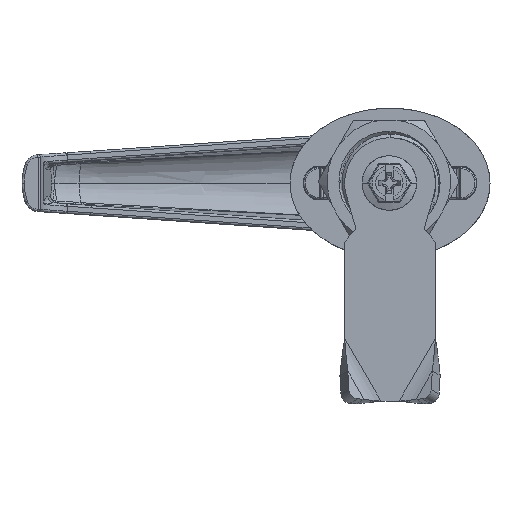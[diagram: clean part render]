
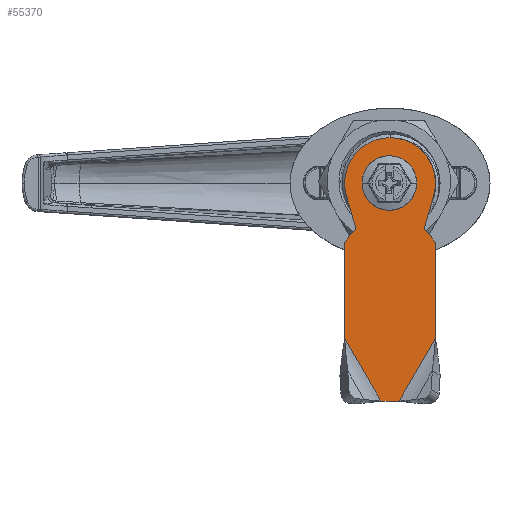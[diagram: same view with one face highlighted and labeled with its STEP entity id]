
A CAD part, front view. The second image highlights one B-rep face of the part: STEP entity #55370.
In plain terms, the highlighted planar face has unit normal (0, -1, 0) as drawn and (0, 0, 1) by its records, which use the part's own axes.
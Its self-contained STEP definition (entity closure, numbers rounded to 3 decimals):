
#62 = DIRECTION ( 'NONE',  ( 0., 0., 1. ) ) ;
#149 = AXIS2_PLACEMENT_3D ( 'NONE', #74948, #81919, #68790 ) ;
#229 = DIRECTION ( 'NONE',  ( -1., 0., 0. ) ) ;
#641 = EDGE_CURVE ( 'NONE', #6091, #76525, #75152, .T. ) ;
#1033 = CIRCLE ( 'NONE', #85734, 1. ) ;
#1094 = EDGE_LOOP ( 'NONE', ( #63934, #5367, #47738, #48178, #26622, #7473, #42017, #30964, #29898, #8454 ) ) ;
#2169 = VERTEX_POINT ( 'NONE', #28005 ) ;
#2485 = DIRECTION ( 'NONE',  ( 1., 0., 0. ) ) ;
#2763 = ORIENTED_EDGE ( 'NONE', *, *, #53090, .F. ) ;
#2764 = AXIS2_PLACEMENT_3D ( 'NONE', #60504, #12294, #54000 ) ;
#4148 = AXIS2_PLACEMENT_3D ( 'NONE', #81488, #43571, #24021 ) ;
#4316 = CARTESIAN_POINT ( 'NONE',  ( 4., 0., 4. ) ) ;
#4379 = VERTEX_POINT ( 'NONE', #25475 ) ;
#4467 = CARTESIAN_POINT ( 'NONE',  ( 10., 7.5, 4. ) ) ;
#4570 = VECTOR ( 'NONE', #229, 1000. ) ;
#4766 = CARTESIAN_POINT ( 'NONE',  ( 12.979, -10., 4. ) ) ;
#5367 = ORIENTED_EDGE ( 'NONE', *, *, #80478, .T. ) ;
#6091 = VERTEX_POINT ( 'NONE', #70748 ) ;
#6527 = CARTESIAN_POINT ( 'NONE',  ( 0., 0., 4. ) ) ;
#6788 = VECTOR ( 'NONE', #61321, 1000. ) ;
#7234 = ORIENTED_EDGE ( 'NONE', *, *, #78962, .T. ) ;
#7473 = ORIENTED_EDGE ( 'NONE', *, *, #59435, .F. ) ;
#8049 = VECTOR ( 'NONE', #30923, 1000. ) ;
#8454 = ORIENTED_EDGE ( 'NONE', *, *, #47170, .F. ) ;
#8817 = CARTESIAN_POINT ( 'NONE',  ( 47.979, 5., 4. ) ) ;
#10145 = DIRECTION ( 'NONE',  ( 0.96, -0.28, 0. ) ) ;
#10425 = EDGE_CURVE ( 'NONE', #76525, #70147, #16674, .T. ) ;
#11256 = VERTEX_POINT ( 'NONE', #84826 ) ;
#12049 = CIRCLE ( 'NONE', #57799, 1. ) ;
#12294 = DIRECTION ( 'NONE',  ( 0., 0., -1. ) ) ;
#13185 = DIRECTION ( 'NONE',  ( 1., 0., 0. ) ) ;
#13623 = VERTEX_POINT ( 'NONE', #33492 ) ;
#16015 = ORIENTED_EDGE ( 'NONE', *, *, #20345, .F. ) ;
#16674 = LINE ( 'NONE', #69688, #31872 ) ;
#19129 = EDGE_CURVE ( 'NONE', #2169, #28069, #83096, .T. ) ;
#19151 = FACE_OUTER_BOUND ( 'NONE', #1094, .T. ) ;
#19192 = VECTOR ( 'NONE', #74477, 1000. ) ;
#19696 = CARTESIAN_POINT ( 'NONE',  ( 0., -4., 4. ) ) ;
#20019 = FACE_BOUND ( 'NONE', #58345, .T. ) ;
#20319 = ORIENTED_EDGE ( 'NONE', *, *, #19129, .F. ) ;
#20345 = EDGE_CURVE ( 'NONE', #66892, #63576, #63881, .T. ) ;
#21091 = LINE ( 'NONE', #79814, #4570 ) ;
#23910 = VERTEX_POINT ( 'NONE', #4766 ) ;
#24021 = DIRECTION ( 'NONE',  ( -1., 0., 0. ) ) ;
#24596 = LINE ( 'NONE', #49409, #56517 ) ;
#24962 = VECTOR ( 'NONE', #79198, 1000. ) ;
#25475 = CARTESIAN_POINT ( 'NONE',  ( 10., -7.5, 4. ) ) ;
#26622 = ORIENTED_EDGE ( 'NONE', *, *, #66792, .F. ) ;
#26848 = VERTEX_POINT ( 'NONE', #36773 ) ;
#28005 = CARTESIAN_POINT ( 'NONE',  ( -4., 3., 4. ) ) ;
#28069 = VERTEX_POINT ( 'NONE', #34533 ) ;
#29245 = VERTEX_POINT ( 'NONE', #55657 ) ;
#29799 = DIRECTION ( 'NONE',  ( -1., 0., 0. ) ) ;
#29898 = ORIENTED_EDGE ( 'NONE', *, *, #77596, .F. ) ;
#30311 = VERTEX_POINT ( 'NONE', #37389 ) ;
#30923 = DIRECTION ( 'NONE',  ( 0., 1., 0. ) ) ;
#30964 = ORIENTED_EDGE ( 'NONE', *, *, #641, .F. ) ;
#31872 = VECTOR ( 'NONE', #10145, 1000. ) ;
#31979 = EDGE_CURVE ( 'NONE', #13623, #23910, #34882, .T. ) ;
#33492 = CARTESIAN_POINT ( 'NONE',  ( 34.123, -10., 4. ) ) ;
#34533 = CARTESIAN_POINT ( 'NONE',  ( -4., -3., 4. ) ) ;
#34586 = VECTOR ( 'NONE', #77129, 1000. ) ;
#34819 = EDGE_CURVE ( 'NONE', #49705, #29245, #54864, .T. ) ;
#34882 = LINE ( 'NONE', #81841, #6788 ) ;
#36550 = CARTESIAN_POINT ( 'NONE',  ( -4., 0., 4. ) ) ;
#36773 = CARTESIAN_POINT ( 'NONE',  ( 34.123, 10., 4. ) ) ;
#36963 = DIRECTION ( 'NONE',  ( 0., -1., 0. ) ) ;
#37389 = CARTESIAN_POINT ( 'NONE',  ( -3., 4., 4. ) ) ;
#37438 = CIRCLE ( 'NONE', #2764, 1. ) ;
#38492 = ORIENTED_EDGE ( 'NONE', *, *, #67937, .T. ) ;
#39143 = CARTESIAN_POINT ( 'NONE',  ( -3., -4., 4. ) ) ;
#39248 = CARTESIAN_POINT ( 'NONE',  ( 11.49, 8.75, 4. ) ) ;
#39588 = LINE ( 'NONE', #73059, #24962 ) ;
#40511 = AXIS2_PLACEMENT_3D ( 'NONE', #6527, #62, #79640 ) ;
#40670 = LINE ( 'NONE', #66704, #49116 ) ;
#42017 = ORIENTED_EDGE ( 'NONE', *, *, #10425, .F. ) ;
#43571 = DIRECTION ( 'NONE',  ( 0., 0., -1. ) ) ;
#43635 = CARTESIAN_POINT ( 'NONE',  ( 3., 3., 4. ) ) ;
#44262 = VERTEX_POINT ( 'NONE', #39143 ) ;
#45787 = CARTESIAN_POINT ( 'NONE',  ( 3., -3., 4. ) ) ;
#47170 = EDGE_CURVE ( 'NONE', #23910, #4379, #40670, .T. ) ;
#47738 = ORIENTED_EDGE ( 'NONE', *, *, #34819, .F. ) ;
#48178 = ORIENTED_EDGE ( 'NONE', *, *, #66289, .T. ) ;
#48231 = VECTOR ( 'NONE', #36963, 1000. ) ;
#49116 = VECTOR ( 'NONE', #60178, 1000. ) ;
#49409 = CARTESIAN_POINT ( 'NONE',  ( 6.4, -8.55, 4. ) ) ;
#49705 = VERTEX_POINT ( 'NONE', #78333 ) ;
#49709 = LINE ( 'NONE', #76703, #34586 ) ;
#50106 = EDGE_CURVE ( 'NONE', #44262, #28069, #80552, .T. ) ;
#50339 = CARTESIAN_POINT ( 'NONE',  ( 2.8, 9.6, 4. ) ) ;
#52730 = DIRECTION ( 'NONE',  ( -1., 0., 0. ) ) ;
#53090 = EDGE_CURVE ( 'NONE', #44262, #57337, #72746, .T. ) ;
#54000 = DIRECTION ( 'NONE',  ( -1., 0., 0. ) ) ;
#54864 = LINE ( 'NONE', #8817, #19192 ) ;
#55050 = CARTESIAN_POINT ( 'NONE',  ( 30.479, 10., 4. ) ) ;
#55370 = ADVANCED_FACE ( 'NONE', ( #19151, #20019 ), #66047, .T. ) ;
#55657 = CARTESIAN_POINT ( 'NONE',  ( 47.979, -2., 4. ) ) ;
#55893 = LINE ( 'NONE', #55050, #65171 ) ;
#56371 = CARTESIAN_POINT ( 'NONE',  ( 3., 4., 4. ) ) ;
#56517 = VECTOR ( 'NONE', #77670, 1000. ) ;
#57337 = VERTEX_POINT ( 'NONE', #85923 ) ;
#57799 = AXIS2_PLACEMENT_3D ( 'NONE', #43635, #82400, #29799 ) ;
#57892 = CARTESIAN_POINT ( 'NONE',  ( 4., -3., 4. ) ) ;
#58345 = EDGE_LOOP ( 'NONE', ( #38492, #68445, #7234, #16015, #80337, #2763, #78631, #20319 ) ) ;
#59435 = EDGE_CURVE ( 'NONE', #70147, #11256, #76850, .T. ) ;
#60178 = DIRECTION ( 'NONE',  ( -0.766, 0.643, 0. ) ) ;
#60504 = CARTESIAN_POINT ( 'NONE',  ( -3., 3., 4. ) ) ;
#61321 = DIRECTION ( 'NONE',  ( -1., 0., 0. ) ) ;
#63306 = CARTESIAN_POINT ( 'NONE',  ( 4., 3., 4. ) ) ;
#63576 = VERTEX_POINT ( 'NONE', #63306 ) ;
#63811 = EDGE_CURVE ( 'NONE', #66892, #57337, #1033, .T. ) ;
#63840 = VECTOR ( 'NONE', #13185, 1000. ) ;
#63881 = LINE ( 'NONE', #4316, #8049 ) ;
#63934 = ORIENTED_EDGE ( 'NONE', *, *, #31979, .F. ) ;
#65171 = VECTOR ( 'NONE', #2485, 1000. ) ;
#65725 = DIRECTION ( 'NONE',  ( 0., 0., -1. ) ) ;
#66047 = PLANE ( 'NONE',  #40511 ) ;
#66289 = EDGE_CURVE ( 'NONE', #49705, #26848, #39588, .T. ) ;
#66704 = CARTESIAN_POINT ( 'NONE',  ( 11.49, -8.75, 4. ) ) ;
#66792 = EDGE_CURVE ( 'NONE', #11256, #26848, #55893, .T. ) ;
#66892 = VERTEX_POINT ( 'NONE', #57892 ) ;
#67937 = EDGE_CURVE ( 'NONE', #2169, #30311, #37438, .T. ) ;
#68445 = ORIENTED_EDGE ( 'NONE', *, *, #72548, .F. ) ;
#68790 = DIRECTION ( 'NONE',  ( 1., 0., 0. ) ) ;
#69688 = CARTESIAN_POINT ( 'NONE',  ( 6.4, 8.55, 4. ) ) ;
#70147 = VERTEX_POINT ( 'NONE', #4467 ) ;
#70748 = CARTESIAN_POINT ( 'NONE',  ( 2.8, -9.6, 4. ) ) ;
#72548 = EDGE_CURVE ( 'NONE', #80701, #30311, #21091, .T. ) ;
#72746 = LINE ( 'NONE', #19696, #63840 ) ;
#73059 = CARTESIAN_POINT ( 'NONE',  ( 47.979, 2., 4. ) ) ;
#74477 = DIRECTION ( 'NONE',  ( 0., -1., 0. ) ) ;
#74948 = CARTESIAN_POINT ( 'NONE',  ( 0., 0., 4. ) ) ;
#75152 = CIRCLE ( 'NONE', #149, 10. ) ;
#75719 = VECTOR ( 'NONE', #85801, 1000. ) ;
#76525 = VERTEX_POINT ( 'NONE', #50339 ) ;
#76703 = CARTESIAN_POINT ( 'NONE',  ( 34.123, -10., 4. ) ) ;
#76850 = LINE ( 'NONE', #39248, #75719 ) ;
#77129 = DIRECTION ( 'NONE',  ( 0.866, 0.5, 0. ) ) ;
#77596 = EDGE_CURVE ( 'NONE', #4379, #6091, #24596, .T. ) ;
#77670 = DIRECTION ( 'NONE',  ( -0.96, -0.28, 0. ) ) ;
#78333 = CARTESIAN_POINT ( 'NONE',  ( 47.979, 2., 4. ) ) ;
#78631 = ORIENTED_EDGE ( 'NONE', *, *, #50106, .T. ) ;
#78962 = EDGE_CURVE ( 'NONE', #80701, #63576, #12049, .T. ) ;
#79198 = DIRECTION ( 'NONE',  ( -0.866, 0.5, 0. ) ) ;
#79640 = DIRECTION ( 'NONE',  ( 1., 0., 0. ) ) ;
#79814 = CARTESIAN_POINT ( 'NONE',  ( 0., 4., 4. ) ) ;
#80337 = ORIENTED_EDGE ( 'NONE', *, *, #63811, .T. ) ;
#80478 = EDGE_CURVE ( 'NONE', #13623, #29245, #49709, .T. ) ;
#80552 = CIRCLE ( 'NONE', #4148, 1. ) ;
#80701 = VERTEX_POINT ( 'NONE', #56371 ) ;
#81488 = CARTESIAN_POINT ( 'NONE',  ( -3., -3., 4. ) ) ;
#81841 = CARTESIAN_POINT ( 'NONE',  ( 30.479, -10., 4. ) ) ;
#81919 = DIRECTION ( 'NONE',  ( 0., 0., -1. ) ) ;
#82400 = DIRECTION ( 'NONE',  ( 0., 0., -1. ) ) ;
#83096 = LINE ( 'NONE', #36550, #48231 ) ;
#84826 = CARTESIAN_POINT ( 'NONE',  ( 12.979, 10., 4. ) ) ;
#85734 = AXIS2_PLACEMENT_3D ( 'NONE', #45787, #65725, #52730 ) ;
#85801 = DIRECTION ( 'NONE',  ( 0.766, 0.643, 0. ) ) ;
#85923 = CARTESIAN_POINT ( 'NONE',  ( 3., -4., 4. ) ) ;
